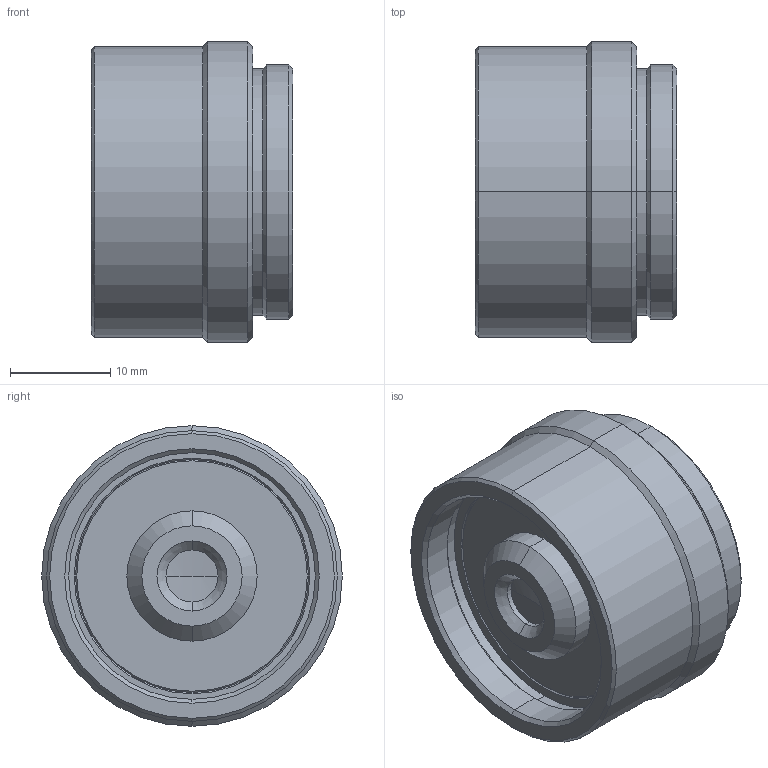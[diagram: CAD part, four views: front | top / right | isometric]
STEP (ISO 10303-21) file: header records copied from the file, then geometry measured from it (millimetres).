
FILE_DESCRIPTION (( 'STEP AP203' ), '1' );
FILE_NAME ('VS-TM2.STEP', '2020-04-01T01:49:22', ( '' ), ( '' ), 'SwSTEP 2.0', 'SolidWorks 2018', '' );
FILE_SCHEMA (( 'CONFIG_CONTROL_DESIGN' ));
Length unit declared in the file: millimetre
Products named in the file (1): VS-TM2
Bounding box: 20.11 x 30 x 30 mm (x, y, z)
Volume: 6889.9 mm3; surface area: 4473.4 mm2
Topology: 1 solids, 1 shells, 72 faces, 146 edges, 86 vertices
Faces by surface type: cone 36, cylinder 22, plane 10, sphere 4
Entity records: 1963 total; most frequent: DIRECTION 380, CARTESIAN_POINT 305, ORIENTED_EDGE 292, AXIS2_PLACEMENT_3D 161, EDGE_CURVE 146, CIRCLE 88, VERTEX_POINT 86, EDGE_LOOP 82
